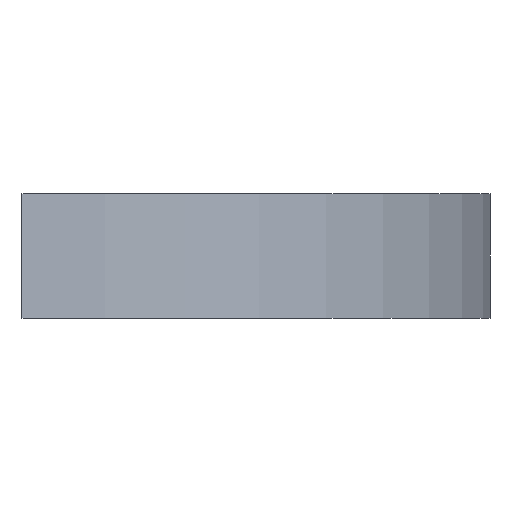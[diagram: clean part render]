
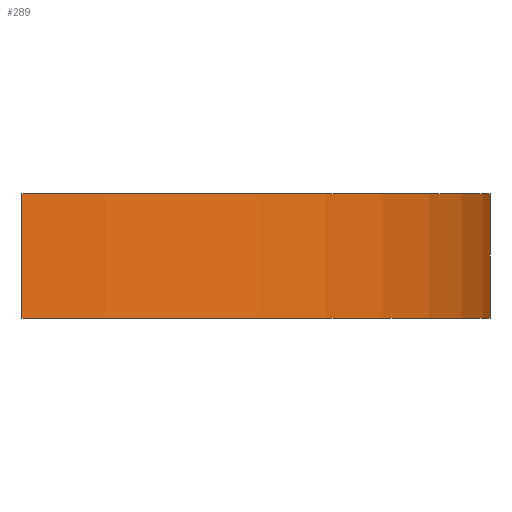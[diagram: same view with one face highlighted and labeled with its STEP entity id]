
A CAD part, front view. The second image highlights one B-rep face of the part: STEP entity #289.
In plain terms, the highlighted cylindrical face has radius 50 mm (diameter 100 mm), a partial arc.
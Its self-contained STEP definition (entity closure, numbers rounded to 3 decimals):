
#10 = DIRECTION ( 'NONE',  ( 0., 0., 1. ) ) ;
#83 = CARTESIAN_POINT ( 'NONE',  ( 50., 0., 12. ) ) ;
#116 = DIRECTION ( 'NONE',  ( 1., 0., 0. ) ) ;
#163 = LINE ( 'NONE', #232, #655 ) ;
#198 = ORIENTED_EDGE ( 'NONE', *, *, #437, .T. ) ;
#232 = CARTESIAN_POINT ( 'NONE',  ( 5., -49.749, 6. ) ) ;
#237 = AXIS2_PLACEMENT_3D ( 'NONE', #472, #678, #293 ) ;
#279 = LINE ( 'NONE', #368, #428 ) ;
#289 = ADVANCED_FACE ( 'NONE', ( #519 ), #333, .T. ) ;
#293 = DIRECTION ( 'NONE',  ( 1., 0., 0. ) ) ;
#316 = CARTESIAN_POINT ( 'NONE',  ( 0., 0., 0. ) ) ;
#326 = CARTESIAN_POINT ( 'NONE',  ( 0., 0., 12. ) ) ;
#331 = EDGE_CURVE ( 'NONE', #398, #366, #163, .T. ) ;
#333 = CYLINDRICAL_SURFACE ( 'NONE', #237, 50. ) ;
#343 = CARTESIAN_POINT ( 'NONE',  ( 50., 0., 0. ) ) ;
#366 = VERTEX_POINT ( 'NONE', #484 ) ;
#368 = CARTESIAN_POINT ( 'NONE',  ( 50., 0., 6. ) ) ;
#392 = DIRECTION ( 'NONE',  ( 1., 0., 0. ) ) ;
#394 = EDGE_CURVE ( 'NONE', #536, #542, #279, .T. ) ;
#398 = VERTEX_POINT ( 'NONE', #490 ) ;
#428 = VECTOR ( 'NONE', #688, 1000. ) ;
#437 = EDGE_CURVE ( 'NONE', #398, #536, #722, .T. ) ;
#444 = CIRCLE ( 'NONE', #713, 50. ) ;
#472 = CARTESIAN_POINT ( 'NONE',  ( 0., 0., 6. ) ) ;
#484 = CARTESIAN_POINT ( 'NONE',  ( 5., -49.749, 12. ) ) ;
#490 = CARTESIAN_POINT ( 'NONE',  ( 5., -49.749, 0. ) ) ;
#495 = DIRECTION ( 'NONE',  ( 0., 0., 1. ) ) ;
#519 = FACE_OUTER_BOUND ( 'NONE', #776, .T. ) ;
#536 = VERTEX_POINT ( 'NONE', #343 ) ;
#542 = VERTEX_POINT ( 'NONE', #83 ) ;
#553 = ORIENTED_EDGE ( 'NONE', *, *, #758, .F. ) ;
#655 = VECTOR ( 'NONE', #749, 1000. ) ;
#678 = DIRECTION ( 'NONE',  ( 0., 0., 1. ) ) ;
#688 = DIRECTION ( 'NONE',  ( 0., 0., 1. ) ) ;
#713 = AXIS2_PLACEMENT_3D ( 'NONE', #326, #10, #392 ) ;
#722 = CIRCLE ( 'NONE', #754, 50. ) ;
#748 = ORIENTED_EDGE ( 'NONE', *, *, #331, .F. ) ;
#749 = DIRECTION ( 'NONE',  ( 0., 0., 1. ) ) ;
#754 = AXIS2_PLACEMENT_3D ( 'NONE', #316, #495, #116 ) ;
#758 = EDGE_CURVE ( 'NONE', #366, #542, #444, .T. ) ;
#776 = EDGE_LOOP ( 'NONE', ( #748, #198, #823, #553 ) ) ;
#823 = ORIENTED_EDGE ( 'NONE', *, *, #394, .T. ) ;
